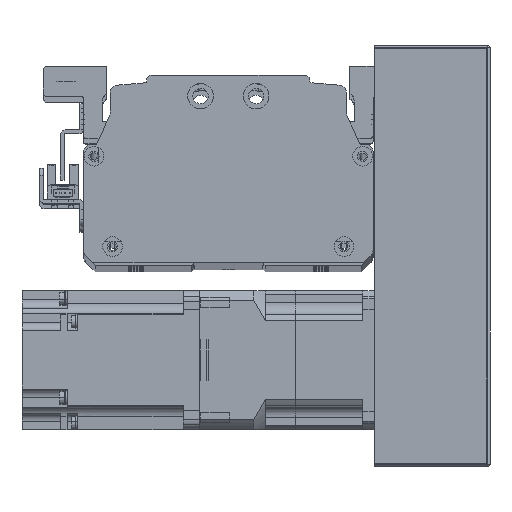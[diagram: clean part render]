
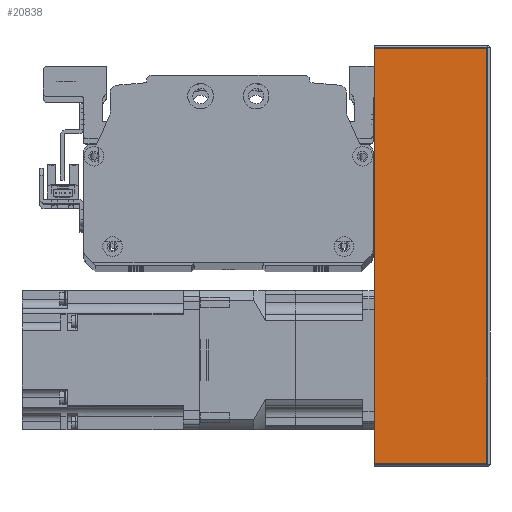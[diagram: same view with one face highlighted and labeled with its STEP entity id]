
A CAD part, top view. The second image highlights one B-rep face of the part: STEP entity #20838.
In plain terms, the highlighted planar face has unit normal (0, 0, 1) as drawn and (0, 1, 0) by its records, which use the part's own axes.
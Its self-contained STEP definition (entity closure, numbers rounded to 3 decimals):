
#568=PLANE('',#22893);
#1775=LINE('',#33963,#3399);
#1789=LINE('',#34008,#3413);
#1793=LINE('',#34030,#3417);
#1812=LINE('',#34093,#3436);
#3399=VECTOR('',#27614,10.);
#3413=VECTOR('',#27662,10.);
#3417=VECTOR('',#27696,10.);
#3436=VECTOR('',#27779,10.);
#5868=FACE_OUTER_BOUND('',#7372,.T.);
#7372=EDGE_LOOP('',(#17378,#17379,#17380,#17381));
#10268=VERTEX_POINT('',#33960);
#10269=VERTEX_POINT('',#33962);
#10282=VERTEX_POINT('',#34003);
#10283=VERTEX_POINT('',#34006);
#12733=EDGE_CURVE('',#10269,#10268,#1775,.T.);
#12757=EDGE_CURVE('',#10282,#10283,#1789,.T.);
#12769=EDGE_CURVE('',#10268,#10282,#1793,.T.);
#12800=EDGE_CURVE('',#10283,#10269,#1812,.T.);
#17378=ORIENTED_EDGE('',*,*,#12757,.T.);
#17379=ORIENTED_EDGE('',*,*,#12800,.T.);
#17380=ORIENTED_EDGE('',*,*,#12733,.T.);
#17381=ORIENTED_EDGE('',*,*,#12769,.T.);
#20838=ADVANCED_FACE('',(#5868),#568,.F.);
#22893=AXIS2_PLACEMENT_3D('',#34092,#27777,#27778);
#27614=DIRECTION('',(-1.,0.,0.));
#27662=DIRECTION('',(1.,0.,0.));
#27696=DIRECTION('',(0.,0.,1.));
#27777=DIRECTION('center_axis',(0.,-1.,0.));
#27778=DIRECTION('ref_axis',(-1.,0.,0.));
#27779=DIRECTION('',(0.,0.,-1.));
#33960=CARTESIAN_POINT('',(-90.,38.,-25.));
#33962=CARTESIAN_POINT('',(90.,38.,-25.));
#33963=CARTESIAN_POINT('',(-91.,38.,-25.));
#34003=CARTESIAN_POINT('',(-90.,38.,24.));
#34006=CARTESIAN_POINT('',(90.,38.,24.));
#34008=CARTESIAN_POINT('',(45.5,38.,24.));
#34030=CARTESIAN_POINT('',(-90.,38.,0.));
#34092=CARTESIAN_POINT('Origin',(91.,38.,0.));
#34093=CARTESIAN_POINT('',(90.,38.,0.));
